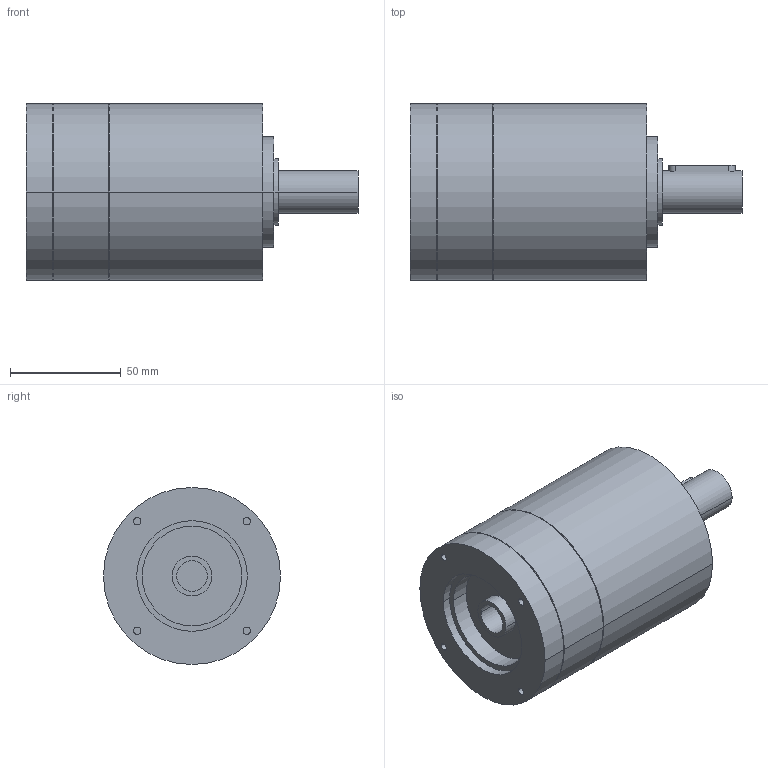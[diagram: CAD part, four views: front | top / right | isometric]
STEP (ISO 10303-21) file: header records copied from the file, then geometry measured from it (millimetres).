
FILE_DESCRIPTION(('CoCreate Modeling STEP Export'),'2;1');
FILE_NAME('GPR100_ig-3-4-5-6_19_B14_14_P22.stp','2014-08-26T10:07:20',(''),(''),'CoCreate Modeling STEP processor for AP214 (Solid Model)','CoCreate Modeling 16.00C 25-Feb-2009 (C) Parametric Technology GmbH','');
FILE_SCHEMA(('AUTOMOTIVE_DESIGN { 1 0 10303 214 1 1 1 1 }'));
Length unit declared in the file: millimetre
Products named in the file (2): GPR100_ig-3-4-5-6_19_B14_14_P22
Assembly tree (1 placements, depth 2):
  GPR100_ig-3-4-5-6_19_B14_14_P22
    GPR100_ig-3-4-5-6_19_B14_14_P22
Bounding box: 150 x 80 x 80 mm (x, y, z)
Volume: 533736.3 mm3; surface area: 45867.4 mm2
Topology: 1 solids, 1 shells, 68 faces, 164 edges, 114 vertices
Faces by surface type: cylinder 40, plane 22, cone 6
Entity records: 1701 total; most frequent: ORIENTED_EDGE 324, CARTESIAN_POINT 316, DIRECTION 224, EDGE_CURVE 162, VERTEX_POINT 114, AXIS2_PLACEMENT_3D 86, EDGE_LOOP 86, FACE_OUTER_BOUND 68
